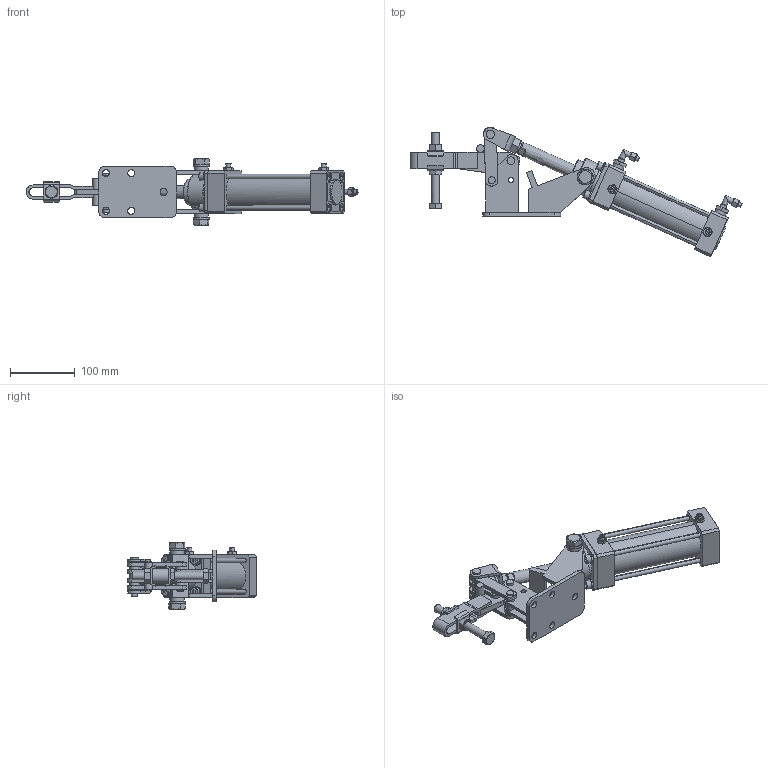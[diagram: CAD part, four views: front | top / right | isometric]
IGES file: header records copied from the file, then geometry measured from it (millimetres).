
Global section: file name: No.101V; native system: Autodesk Inventor 2020; preprocessor: unknown; author: 高橋善宗,,11,0,1; organization: 5H20160323.072254; date: 20240416.160951; units: millimetre
Bounding box: 512.09 x 200.05 x 103.8 mm (x, y, z)
Volume: 832438.6 mm3; surface area: 317815.7 mm2
Topology: 45 solids, 45 shells, 927 faces, 2168 edges, 1418 vertices
Faces by surface type: bspline 927
